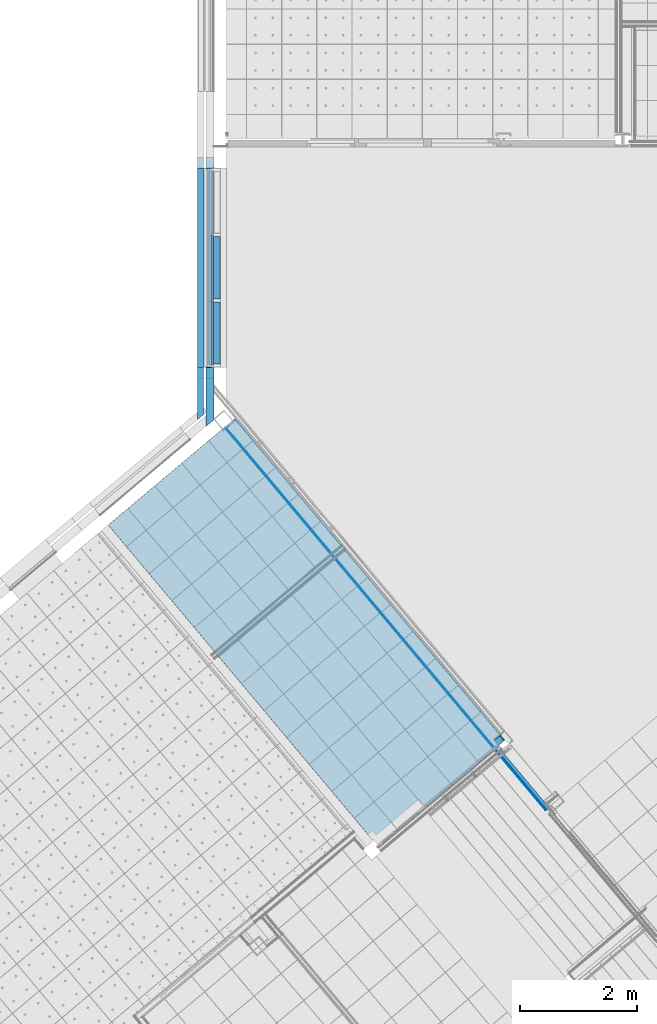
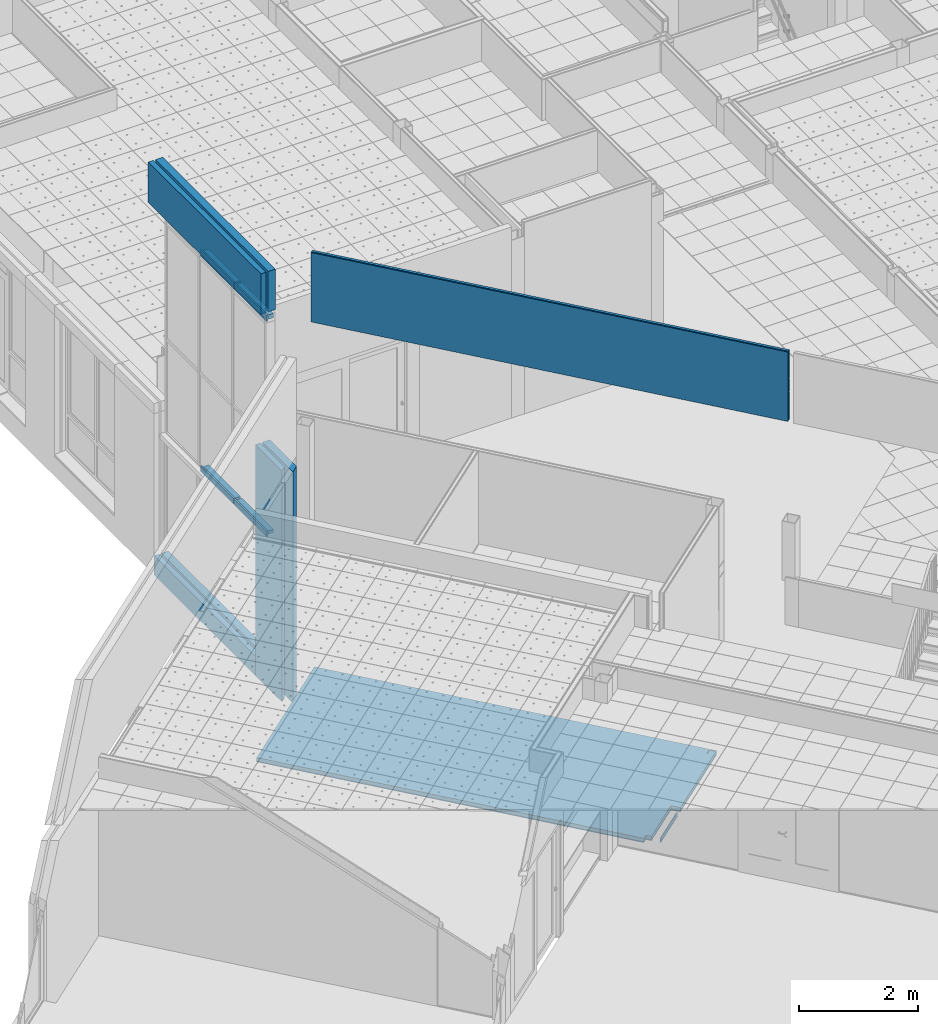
# One storey, part 63 of 338: 19 building element parts, 10 elements without a shape of their own.
"""IFC2X3 building model written with IfcOpenShell, lengths in millimetres."""

from ifc_helpers import new_model, entity, si_unit, converted_unit, derived_unit, money_unit, direction, frame, origin_with_axes, place, context, subcontext, project, spatial, faceted_brep, material, type_object, element, aggregate, save


model = new_model("IFC2X3")

# Units and contexts
model_context = context("Model", 3, precision=0.01, world=origin_with_axes(), true_north=direction((0.0, 1.0)))
plan_context = context("Plan", 3, precision=0.01, world=origin_with_axes(), true_north=direction((0.0, 1.0)))
body_context = subcontext(model_context, "Body", "Model", "MODEL_VIEW")
ifc_project = project(units=[si_unit("LENGTHUNIT", "METRE", prefix="MILLI"), si_unit("AREAUNIT", "SQUARE_METRE"), si_unit("VOLUMEUNIT", "CUBIC_METRE"), converted_unit("PLANEANGLEUNIT", "DEGREE", entity("IfcPlaneAngleMeasure", 0.0174532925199), si_unit("PLANEANGLEUNIT", "RADIAN"), dimensions=[0, 0, 0, 0, 0, 0, 0]), money_unit("EUR"), converted_unit("TIMEUNIT", "Year", entity("IfcTimeMeasure", 31556926.0), si_unit("TIMEUNIT", "SECOND"), dimensions=[0, 0, 1, 0, 0, 0, 0]), si_unit("MASSUNIT", "GRAM", prefix="KILO"), si_unit("THERMODYNAMICTEMPERATUREUNIT", "DEGREE_CELSIUS"), si_unit("LUMINOUSINTENSITYUNIT", "LUMEN"), si_unit("ENERGYUNIT", "JOULE", prefix="MEGA"), derived_unit("THERMALCONDUCTANCEUNIT", [(si_unit("POWERUNIT", "WATT"), 1), (si_unit("LENGTHUNIT", "METRE"), -1), (si_unit("THERMODYNAMICTEMPERATUREUNIT", "KELVIN"), -1)]), derived_unit("SPECIFICHEATCAPACITYUNIT", [(si_unit("ENERGYUNIT", "JOULE"), 1), (si_unit("MASSUNIT", "GRAM", prefix="KILO"), -1), (si_unit("THERMODYNAMICTEMPERATUREUNIT", "KELVIN"), -1)]), derived_unit("MASSDENSITYUNIT", [(si_unit("MASSUNIT", "GRAM", prefix="KILO"), 1), (si_unit("VOLUMEUNIT", "CUBIC_METRE"), -1)])], contexts=[model_context, plan_context])

# Site, building, storey
site_placement = place(None, origin_with_axes())
site = spatial("IfcSite", under=ifc_project, at=site_placement, Name="Fortuinstraat Woensdrecht", CompositionType="ELEMENT")
building_placement = place(site_placement, origin_with_axes())
building = spatial("IfcBuilding", under=site, at=building_placement, Name="IKC Fortuna", CompositionType="ELEMENT")
storey_placement = place(building_placement, origin_with_axes())
storey = spatial("IfcBuildingStorey", under=building, at=storey_placement, Name="00 begane grond", CompositionType="ELEMENT", Elevation=0.0)

# Wall, building element parts
wall_type_1 = type_object("IfcWallType", Name="21 MW hoofd 280", PredefinedType="NOTDEFINED")
wall_1_placement = place(storey_placement, frame((13595.4349765, 15889.7768159, 7010.0), z_axis=(0.0, 0.0, 1.0), x_axis=(0.0, -1.0, 0.0)))
wall_1 = element("IfcWall", 1, at=wall_1_placement, inside=storey, type_object=wall_type_1, Name="21_Wand_Baksteen")
ifc_material_1 = material(Name="ALG - ISOLATIE")
building_element_part_1_placement = place(wall_1_placement, origin_with_axes())
building_element_part_1 = element("IfcBuildingElementPart", 2, at=building_element_part_1_placement, material=ifc_material_1, Name="ALG - ISOLATIE", context=body_context, shape_type="Brep", body=[
    faceted_brep([(0.0, 0.0, 0.0), (3774.86273588, 0.0, 0.0), (3774.86273588, -140.0, 0.0), (0.0, -140.0, 0.0), (0.0, 0.0, 830.0), (3774.86273588, 0.0, 830.0), (3774.86273588, -140.0, 830.0), (0.0, -140.0, 830.0)], [[[0, 1, 2, 3]], [[4, 5, 1, 0]], [[2, 1, 5, 6]], [[3, 2, 6, 7]], [[4, 0, 3, 7]], [[7, 6, 5, 4]]]),
])
ifc_material_2 = material(Name="Steen - Baksteen Hoofd")
building_element_part_2_placement = place(wall_1_placement, origin_with_axes())
building_element_part_2 = element("IfcBuildingElementPart", 3, at=building_element_part_2_placement, material=ifc_material_2, Name="Steen - Baksteen Hoofd", context=body_context, shape_type="Brep", body=[
    faceted_brep([(0.0, -180.0, 0.0), (3774.86273588, -180.0, 0.0), (3774.86273588, -280.0, 0.0), (0.0, -280.0, 0.0), (0.0, -180.0, 830.0), (3774.86273588, -180.0, 830.0), (3774.86273588, -280.0, 830.0), (0.0, -280.0, 830.0)], [[[0, 1, 2, 3]], [[4, 5, 1, 0]], [[2, 1, 5, 6]], [[3, 2, 6, 7]], [[4, 0, 3, 7]], [[7, 6, 5, 4]]]),
])
aggregate(wall_1, [building_element_part_1, building_element_part_2])

# Curtain wall, plates, building element parts
curtain_wall_type = type_object("IfcCurtainWallType", Name="Curtain Wall Type", PredefinedType="NOTDEFINED")
curtain_wall_placement = place(storey_placement, frame((13569.9121752, 15129.2768159, -0.000250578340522), z_axis=(0.0, 0.0, 1.0), x_axis=(1.0, 0.0, 0.0)))
curtain_wall = element("IfcCurtainWall", 4, at=curtain_wall_placement, inside=storey, type_object=curtain_wall_type, Name="21_Vliesgevel_Vliesgevel")
plate_type_1 = type_object("IfcPlateType", Name="Distinct Panel 1095 x 114 x 33", PredefinedType="CURTAIN_PANEL")
plate_1_placement = place(curtain_wall_placement, frame((0.0, -2253.86265555, 2298.5), z_axis=(0.0, 0.0, 1.0), x_axis=(0.0, 1.0, 0.0)))
plate_1 = element("IfcPlate", 5, at=plate_1_placement, type_object=plate_type_1, Name="_Vliesgevel - paneel_Paneel-x", ObjectType="CURTAIN_PANEL")
ifc_material_3 = material(Name="Metaal - Staal AFW")
building_element_part_3_placement = place(plate_1_placement, origin_with_axes())
building_element_part_3 = element("IfcBuildingElementPart", 6, at=building_element_part_3_placement, material=ifc_material_3, Name="Metaal - Staal AFW", context=body_context, shape_type="Brep", body=[
    faceted_brep([(-533.000057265, -14.5, -54.9999927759), (-533.000008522, -14.5, 54.9999934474), (558.000025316, -14.5, 54.9999934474), (558.000025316, -14.5, -54.9999927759), (538.000030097, -14.5, -34.9999975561), (538.000030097, -14.5, 34.9999982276), (-513.00002971, -14.5, 34.9999982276), (-513.000045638, -14.5, -34.9999975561), (-533.000057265, 14.5, -54.9999927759), (-533.000008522, 14.5, 54.9999934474), (558.000025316, 14.5, 54.9999934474), (558.000025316, 14.5, -54.9999927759), (538.000030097, -131.5, 34.9999982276), (538.000030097, -131.5, -34.9999975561), (-513.00002971, -131.5, 34.9999982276), (-513.000045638, -131.5, -34.9999975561), (560.000025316, 14.5, 56.9999934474), (560.000025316, 14.5, -56.9999927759), (-535.000058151, 14.5, -56.9999927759), (-535.000007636, 14.5, 56.9999934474), (560.000025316, -16.5, -56.9999927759), (560.000025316, -16.5, 56.9999934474), (-535.000058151, -16.5, -56.9999927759), (-535.000007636, -16.5, 56.9999934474), (-515.000046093, -16.5, -36.9999975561), (-515.000029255, -16.5, 36.9999982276), (540.000030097, -16.5, 36.9999982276), (540.000030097, -16.5, -36.9999975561), (-515.000046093, -133.5, -36.9999975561), (-515.000029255, -133.5, 36.9999982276), (540.000030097, -133.5, 36.9999982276), (540.000030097, -133.5, -36.9999975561)], [[[0, 1, 2, 3], [4, 5, 6, 7]], [[0, 8, 9, 1]], [[1, 9, 10, 2]], [[2, 10, 11, 3]], [[3, 11, 8, 0]], [[12, 5, 4, 13]], [[6, 5, 12, 14]], [[7, 6, 14, 15]], [[13, 4, 7, 15]], [[16, 17, 18, 19], [8, 11, 10, 9]], [[15, 14, 12, 13]], [[20, 17, 16, 21]], [[22, 18, 17, 20]], [[23, 19, 18, 22]], [[21, 16, 19, 23]], [[22, 20, 21, 23], [24, 25, 26, 27]], [[25, 24, 28, 29]], [[26, 25, 29, 30]], [[27, 26, 30, 31]], [[24, 27, 31, 28]], [[31, 30, 29, 28]]]),
    faceted_brep([(-535.000007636, 16.5, 56.9999934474), (-535.000007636, 14.5, 56.9999934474), (560.000025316, 14.5, 56.9999934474), (560.000025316, 16.5, 56.9999934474), (-535.000058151, 16.5, -56.9999927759), (-535.000058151, 14.5, -56.9999927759), (560.000025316, 14.5, -56.9999927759), (560.000025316, 16.5, -56.9999927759)], [[[0, 1, 2, 3]], [[4, 5, 1, 0]], [[2, 1, 5, 6]], [[3, 2, 6, 7]], [[4, 0, 3, 7]], [[7, 6, 5, 4]]]),
])
building_element_part_4_placement = place(plate_1_placement, origin_with_axes())
building_element_part_4 = element("IfcBuildingElementPart", 7, at=building_element_part_4_placement, material=ifc_material_1, Name="ALG - ISOLATIE", context=body_context, shape_type="Brep", body=[
    faceted_brep([(538.000030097, -14.5, 34.9999982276), (-513.00002971, -14.5, 34.9999982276), (-513.00002971, -131.5, 34.9999982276), (538.000030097, -131.5, 34.9999982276), (558.000025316, -14.5, 54.9999934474), (-533.000008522, -14.5, 54.9999934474), (-533.000057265, -14.5, -54.9999927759), (558.000025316, -14.5, -54.9999927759), (-513.000045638, -14.5, -34.9999975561), (538.000030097, -14.5, -34.9999975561), (-513.000045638, -131.5, -34.9999975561), (538.000030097, -131.5, -34.9999975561), (-533.000008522, 14.5, 54.9999934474), (558.000025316, 14.5, 54.9999934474), (-533.000057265, 14.5, -54.9999927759), (558.000025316, 14.5, -54.9999927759)], [[[0, 1, 2, 3]], [[4, 5, 6, 7], [8, 1, 0, 9]], [[1, 8, 10, 2]], [[3, 2, 10, 11]], [[9, 0, 3, 11]], [[12, 5, 4, 13]], [[14, 6, 5, 12]], [[15, 7, 6, 14]], [[13, 4, 7, 15]], [[8, 9, 11, 10]], [[14, 12, 13, 15]]]),
])
aggregate(plate_1, [building_element_part_3, building_element_part_4])
plate_type_2 = type_object("IfcPlateType", Name="Distinct Panel 1095 x 130 x 33", PredefinedType="CURTAIN_PANEL")
plate_2_placement = place(curtain_wall_placement, frame((0.0, -2253.86262301, 6717.50001103), z_axis=(0.0, 0.0, 1.0), x_axis=(0.0, 1.0, 0.0)))
plate_2 = element("IfcPlate", 8, at=plate_2_placement, type_object=plate_type_2, Name="_Vliesgevel - paneel_Paneel-x", ObjectType="CURTAIN_PANEL")
building_element_part_5_placement = place(plate_2_placement, origin_with_axes())
building_element_part_5 = element("IfcBuildingElementPart", 9, at=building_element_part_5_placement, material=ifc_material_3, Name="Metaal - Staal AFW", context=body_context, shape_type="Brep", body=[
    faceted_brep([(-532.999992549, -14.5, -75.5000041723), (-532.999992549, -14.5, 50.5000056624), (557.999993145, -14.5, 50.5000056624), (557.999993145, -14.5, -75.5000041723), (537.999999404, -14.5, -55.5000104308), (537.999999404, -14.5, 30.5000119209), (-512.999998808, -14.5, 30.5000119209), (-512.999998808, -14.5, -55.5000104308), (-532.999992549, 14.5, -75.5000041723), (-532.999992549, 14.5, 50.5000056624), (557.999993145, 14.5, 50.5000056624), (557.999993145, 14.5, -75.5000041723), (537.999999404, -131.5, 30.5000119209), (537.999999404, -131.5, -55.5000104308), (-512.999998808, -131.5, 30.5000119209), (-512.999998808, -131.5, -55.5000104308), (559.999993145, 14.5, 52.5000056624), (559.999993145, 14.5, -77.5000041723), (-534.999992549, 14.5, -77.5000041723), (-534.999992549, 14.5, 52.5000056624), (559.999993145, -16.5, -77.5000041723), (559.999993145, -16.5, 52.5000056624), (-534.999992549, -16.5, -77.5000041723), (-534.999992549, -16.5, 52.5000056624), (-514.999998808, -16.5, -57.5000104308), (-514.999998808, -16.5, 32.5000119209), (539.999999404, -16.5, 32.5000119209), (539.999999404, -16.5, -57.5000104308), (-514.999998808, -133.5, -57.5000104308), (-514.999998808, -133.5, 32.5000119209), (539.999999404, -133.5, 32.5000119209), (539.999999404, -133.5, -57.5000104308)], [[[0, 1, 2, 3], [4, 5, 6, 7]], [[0, 8, 9, 1]], [[1, 9, 10, 2]], [[2, 10, 11, 3]], [[3, 11, 8, 0]], [[12, 5, 4, 13]], [[6, 5, 12, 14]], [[7, 6, 14, 15]], [[13, 4, 7, 15]], [[16, 17, 18, 19], [8, 11, 10, 9]], [[15, 14, 12, 13]], [[20, 17, 16, 21]], [[22, 18, 17, 20]], [[23, 19, 18, 22]], [[21, 16, 19, 23]], [[22, 20, 21, 23], [24, 25, 26, 27]], [[25, 24, 28, 29]], [[26, 25, 29, 30]], [[27, 26, 30, 31]], [[24, 27, 31, 28]], [[31, 30, 29, 28]]]),
    faceted_brep([(-534.999992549, 16.5, 52.5000056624), (-534.999992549, 14.5, 52.5000056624), (559.999993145, 14.5, 52.5000056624), (559.999993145, 16.5, 52.5000056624), (-534.999992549, 16.5, -77.5000041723), (-534.999992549, 14.5, -77.5000041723), (559.999993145, 14.5, -77.5000041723), (559.999993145, 16.5, -77.5000041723)], [[[0, 1, 2, 3]], [[4, 5, 1, 0]], [[2, 1, 5, 6]], [[3, 2, 6, 7]], [[4, 0, 3, 7]], [[7, 6, 5, 4]]]),
])
building_element_part_6_placement = place(plate_2_placement, origin_with_axes())
building_element_part_6 = element("IfcBuildingElementPart", 10, at=building_element_part_6_placement, material=ifc_material_1, Name="ALG - ISOLATIE", context=body_context, shape_type="Brep", body=[
    faceted_brep([(537.999999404, -14.5, 30.5000119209), (-512.999998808, -14.5, 30.5000119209), (-512.999998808, -131.5, 30.5000119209), (537.999999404, -131.5, 30.5000119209), (557.999993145, -14.5, 50.5000056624), (-532.999992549, -14.5, 50.5000056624), (-532.999992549, -14.5, -75.5000041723), (557.999993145, -14.5, -75.5000041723), (-512.999998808, -14.5, -55.5000104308), (537.999999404, -14.5, -55.5000104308), (-512.999998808, -131.5, -55.5000104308), (537.999999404, -131.5, -55.5000104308), (-532.999992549, 14.5, 50.5000056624), (557.999993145, 14.5, 50.5000056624), (-532.999992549, 14.5, -75.5000041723), (557.999993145, 14.5, -75.5000041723)], [[[0, 1, 2, 3]], [[4, 5, 6, 7], [8, 1, 0, 9]], [[1, 8, 10, 2]], [[3, 2, 10, 11]], [[9, 0, 3, 11]], [[12, 5, 4, 13]], [[14, 6, 5, 12]], [[15, 7, 6, 14]], [[13, 4, 7, 15]], [[8, 9, 11, 10]], [[14, 12, 13, 15]]]),
])
aggregate(plate_2, [building_element_part_5, building_element_part_6])
plate_type_3 = type_object("IfcPlateType", Name="Distinct Panel 1114 x 130 x 33", PredefinedType="CURTAIN_PANEL")
plate_3_placement = place(curtain_wall_placement, frame((0.0, -1126.9313115, 6717.50001103), z_axis=(0.0, 0.0, 1.0), x_axis=(0.0, 1.0, 0.0)))
plate_3 = element("IfcPlate", 11, at=plate_3_placement, type_object=plate_type_3, Name="_Vliesgevel - paneel_Paneel-x", ObjectType="CURTAIN_PANEL")
building_element_part_7_placement = place(plate_3_placement, origin_with_axes())
building_element_part_7 = element("IfcBuildingElementPart", 12, at=building_element_part_7_placement, material=ifc_material_3, Name="Metaal - Staal AFW", context=body_context, shape_type="Brep", body=[
    faceted_brep([(-554.93131454, -14.5, -75.500014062), (-554.93131454, -14.5, 50.5000075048), (554.93131454, -14.5, 50.5000075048), (554.93131454, -14.5, -75.500014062), (534.931309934, -14.5, -55.5000094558), (534.931309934, -14.5, 30.5000028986), (-534.931309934, -14.5, 30.5000028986), (-534.931309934, -14.5, -55.5000094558), (-554.93131454, 14.5, -75.500014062), (-554.93131454, 14.5, 50.5000075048), (554.93131454, 14.5, 50.5000075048), (554.93131454, 14.5, -75.500014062), (534.931309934, -131.5, 30.5000028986), (534.931309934, -131.5, -55.5000094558), (-534.931309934, -131.5, 30.5000028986), (-534.931309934, -131.5, -55.5000094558), (556.93131454, 14.5, 52.5000075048), (556.93131454, 14.5, -77.500014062), (-556.93131454, 14.5, -77.500014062), (-556.93131454, 14.5, 52.5000075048), (556.93131454, -16.5, -77.500014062), (556.93131454, -16.5, 52.5000075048), (-556.93131454, -16.5, -77.500014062), (-556.93131454, -16.5, 52.5000075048), (-536.931309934, -16.5, -57.5000094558), (-536.931309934, -16.5, 32.5000028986), (536.931309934, -16.5, 32.5000028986), (536.931309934, -16.5, -57.5000094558), (-536.931309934, -133.5, -57.5000094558), (-536.931309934, -133.5, 32.5000028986), (536.931309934, -133.5, 32.5000028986), (536.931309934, -133.5, -57.5000094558)], [[[0, 1, 2, 3], [4, 5, 6, 7]], [[0, 8, 9, 1]], [[1, 9, 10, 2]], [[2, 10, 11, 3]], [[3, 11, 8, 0]], [[12, 5, 4, 13]], [[6, 5, 12, 14]], [[7, 6, 14, 15]], [[13, 4, 7, 15]], [[16, 17, 18, 19], [8, 11, 10, 9]], [[15, 14, 12, 13]], [[20, 17, 16, 21]], [[22, 18, 17, 20]], [[23, 19, 18, 22]], [[21, 16, 19, 23]], [[22, 20, 21, 23], [24, 25, 26, 27]], [[25, 24, 28, 29]], [[26, 25, 29, 30]], [[27, 26, 30, 31]], [[24, 27, 31, 28]], [[31, 30, 29, 28]]]),
    faceted_brep([(-556.93131454, 16.5, 52.5000075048), (-556.93131454, 14.5, 52.5000075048), (556.93131454, 14.5, 52.5000075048), (556.93131454, 16.5, 52.5000075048), (-556.93131454, 16.5, -77.500014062), (-556.93131454, 14.5, -77.500014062), (556.93131454, 14.5, -77.500014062), (556.93131454, 16.5, -77.500014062)], [[[0, 1, 2, 3]], [[4, 5, 1, 0]], [[2, 1, 5, 6]], [[3, 2, 6, 7]], [[4, 0, 3, 7]], [[7, 6, 5, 4]]]),
])
building_element_part_8_placement = place(plate_3_placement, origin_with_axes())
building_element_part_8 = element("IfcBuildingElementPart", 13, at=building_element_part_8_placement, material=ifc_material_1, Name="ALG - ISOLATIE", context=body_context, shape_type="Brep", body=[
    faceted_brep([(534.931309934, -14.5, 30.5000028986), (-534.931309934, -14.5, 30.5000028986), (-534.931309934, -131.5, 30.5000028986), (534.931309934, -131.5, 30.5000028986), (554.93131454, -14.5, 50.5000075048), (-554.93131454, -14.5, 50.5000075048), (-554.93131454, -14.5, -75.500014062), (554.93131454, -14.5, -75.500014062), (-534.931309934, -14.5, -55.5000094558), (534.931309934, -14.5, -55.5000094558), (-534.931309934, -131.5, -55.5000094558), (534.931309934, -131.5, -55.5000094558), (-554.93131454, 14.5, 50.5000075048), (554.93131454, 14.5, 50.5000075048), (-554.93131454, 14.5, -75.500014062), (554.93131454, 14.5, -75.500014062)], [[[0, 1, 2, 3]], [[4, 5, 6, 7], [8, 1, 0, 9]], [[1, 8, 10, 2]], [[3, 2, 10, 11]], [[9, 0, 3, 11]], [[12, 5, 4, 13]], [[14, 6, 5, 12]], [[15, 7, 6, 14]], [[13, 4, 7, 15]], [[8, 9, 11, 10]], [[14, 12, 13, 15]]]),
])
aggregate(plate_3, [building_element_part_7, building_element_part_8])
plate_type_4 = type_object("IfcPlateType", Name="Distinct Panel 1114 x 114 x 33", PredefinedType="CURTAIN_PANEL")
plate_4_placement = place(curtain_wall_placement, frame((0.0, -1126.9313115, 2298.5), z_axis=(0.0, 0.0, 1.0), x_axis=(0.0, 1.0, 0.0)))
plate_4 = element("IfcPlate", 14, at=plate_4_placement, type_object=plate_type_4, Name="_Vliesgevel - paneel_Paneel-x", ObjectType="CURTAIN_PANEL")
aggregate(curtain_wall, [plate_1, plate_2, plate_3, plate_4])
building_element_part_9_placement = place(plate_4_placement, origin_with_axes())
building_element_part_9 = element("IfcBuildingElementPart", 15, at=building_element_part_9_placement, material=ifc_material_3, Name="Metaal - Staal AFW", context=body_context, shape_type="Brep", body=[
    faceted_brep([(-554.93131454, -14.5, -55.0000030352), (-554.93131454, -14.5, 55.0000047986), (554.93131454, -14.5, 55.0000047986), (554.93131454, -14.5, -55.0000030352), (534.931309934, -14.5, -34.999998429), (534.931309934, -14.5, 35.0000001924), (-534.931309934, -14.5, 35.0000001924), (-534.931309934, -14.5, -34.999998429), (-554.93131454, 14.5, -55.0000030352), (-554.93131454, 14.5, 55.0000047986), (554.93131454, 14.5, 55.0000047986), (554.93131454, 14.5, -55.0000030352), (534.931309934, -131.5, 35.0000001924), (534.931309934, -131.5, -34.999998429), (-534.931309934, -131.5, 35.0000001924), (-534.931309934, -131.5, -34.999998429), (556.93131454, 14.5, 57.0000047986), (556.93131454, 14.5, -57.0000030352), (-556.93131454, 14.5, -57.0000030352), (-556.93131454, 14.5, 57.0000047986), (556.93131454, -16.5, -57.0000030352), (556.93131454, -16.5, 57.0000047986), (-556.93131454, -16.5, -57.0000030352), (-556.93131454, -16.5, 57.0000047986), (-536.931309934, -16.5, -36.999998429), (-536.931309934, -16.5, 37.0000001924), (536.931309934, -16.5, 37.0000001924), (536.931309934, -16.5, -36.999998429), (-536.931309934, -133.5, -36.999998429), (-536.931309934, -133.5, 37.0000001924), (536.931309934, -133.5, 37.0000001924), (536.931309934, -133.5, -36.999998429)], [[[0, 1, 2, 3], [4, 5, 6, 7]], [[0, 8, 9, 1]], [[1, 9, 10, 2]], [[2, 10, 11, 3]], [[3, 11, 8, 0]], [[12, 5, 4, 13]], [[6, 5, 12, 14]], [[7, 6, 14, 15]], [[13, 4, 7, 15]], [[16, 17, 18, 19], [8, 11, 10, 9]], [[15, 14, 12, 13]], [[20, 17, 16, 21]], [[22, 18, 17, 20]], [[23, 19, 18, 22]], [[21, 16, 19, 23]], [[22, 20, 21, 23], [24, 25, 26, 27]], [[25, 24, 28, 29]], [[26, 25, 29, 30]], [[27, 26, 30, 31]], [[24, 27, 31, 28]], [[31, 30, 29, 28]]]),
    faceted_brep([(-556.93131454, 16.5, 57.0000047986), (-556.93131454, 14.5, 57.0000047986), (556.93131454, 14.5, 57.0000047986), (556.93131454, 16.5, 57.0000047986), (-556.93131454, 16.5, -57.0000030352), (-556.93131454, 14.5, -57.0000030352), (556.93131454, 14.5, -57.0000030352), (556.93131454, 16.5, -57.0000030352)], [[[0, 1, 2, 3]], [[4, 5, 1, 0]], [[2, 1, 5, 6]], [[3, 2, 6, 7]], [[4, 0, 3, 7]], [[7, 6, 5, 4]]]),
])
building_element_part_10_placement = place(plate_4_placement, origin_with_axes())
building_element_part_10 = element("IfcBuildingElementPart", 16, at=building_element_part_10_placement, material=ifc_material_1, Name="ALG - ISOLATIE", context=body_context, shape_type="Brep", body=[
    faceted_brep([(534.931309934, -14.5, 35.0000001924), (-534.931309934, -14.5, 35.0000001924), (-534.931309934, -131.5, 35.0000001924), (534.931309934, -131.5, 35.0000001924), (554.93131454, -14.5, 55.0000047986), (-554.93131454, -14.5, 55.0000047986), (-554.93131454, -14.5, -55.0000030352), (554.93131454, -14.5, -55.0000030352), (-534.931309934, -14.5, -34.999998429), (534.931309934, -14.5, -34.999998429), (-534.931309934, -131.5, -34.999998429), (534.931309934, -131.5, -34.999998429), (-554.93131454, 14.5, 55.0000047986), (554.93131454, 14.5, 55.0000047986), (-554.93131454, 14.5, -55.0000030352), (554.93131454, 14.5, -55.0000030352)], [[[0, 1, 2, 3]], [[4, 5, 6, 7], [8, 1, 0, 9]], [[1, 8, 10, 2]], [[3, 2, 10, 11]], [[9, 0, 3, 11]], [[12, 5, 4, 13]], [[14, 6, 5, 12]], [[15, 7, 6, 14]], [[13, 4, 7, 15]], [[8, 9, 11, 10]], [[14, 12, 13, 15]]]),
])
aggregate(plate_4, [building_element_part_9, building_element_part_10])

# Wall, building element parts
wall_type_2 = type_object("IfcWallType", Name="21 MW accent 280", PredefinedType="NOTDEFINED")
wall_2_placement = place(storey_placement, frame((13595.4352551, 15692.4141437, -485.0), z_axis=(0.0, 0.0, 1.0), x_axis=(0.0, -1.0, 0.0)))
wall_2 = element("IfcWall", 17, at=wall_2_placement, inside=storey, type_object=wall_type_2, Name="21_Wand_Baksteen")
building_element_part_11_placement = place(wall_2_placement, origin_with_axes())
building_element_part_11 = element("IfcBuildingElementPart", 18, at=building_element_part_11_placement, material=ifc_material_1, Name="ALG - ISOLATIE", context=body_context, shape_type="Brep", body=[
    faceted_brep([(0.0, 0.0, 0.0), (3390.0, 0.0, 0.0), (3390.0, -140.0, 0.0), (0.0, -140.0, 0.0), (0.0, 0.0, 395.0), (3390.0, 0.0, 395.0), (3390.0, -140.0, 395.0), (0.0, -140.0, 395.0)], [[[0, 1, 2, 3]], [[4, 5, 1, 0]], [[2, 1, 5, 6]], [[3, 2, 6, 7]], [[4, 0, 3, 7]], [[7, 6, 5, 4]]]),
])
ifc_material_4 = material(Name="Steen - Baksteen Accent")
building_element_part_12_placement = place(wall_2_placement, origin_with_axes())
building_element_part_12 = element("IfcBuildingElementPart", 19, at=building_element_part_12_placement, material=ifc_material_4, Name="Steen - Baksteen Accent", context=body_context, shape_type="Brep", body=[
    faceted_brep([(0.0, -180.0, 0.0), (3390.0, -180.0, 0.0), (3390.0, -280.0, 0.0), (0.0, -280.0, 0.0), (0.0, -180.0, 395.0), (3390.0, -180.0, 395.0), (3390.0, -280.0, 395.0), (0.0, -280.0, 395.0)], [[[0, 1, 2, 3]], [[4, 5, 1, 0]], [[2, 1, 5, 6]], [[3, 2, 6, 7]], [[4, 0, 3, 7]], [[7, 6, 5, 4]]]),
])
aggregate(wall_2, [building_element_part_11, building_element_part_12])

# Covering, building element parts
covering_type = type_object("IfcCoveringType", Name="43 Vloerafwerking 90", PredefinedType="FLOORING")
covering_placement = place(storey_placement, frame((13955.0832906, 11430.3480701, 0.0), z_axis=(0.0, 0.0, 1.0), x_axis=(1.0, 0.0, 0.0)))
covering = element("IfcCovering", 20, at=covering_placement, inside=storey, type_object=covering_type, Name="43_Vloerafwerking_Vloerafwerking", PredefinedType="FLOORING")
ifc_material_5 = material(Name="Cement")
building_element_part_13_placement = place(covering_placement, origin_with_axes())
building_element_part_13 = element("IfcBuildingElementPart", 21, at=building_element_part_13_placement, material=ifc_material_5, Name="Cement", context=body_context, shape_type="Brep", body=[
    faceted_brep([(-44.175260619, -45.0477600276, 0.0), (-52.6017494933, -52.1184237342, 0.0), (-56.5312885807, -47.4353814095, 0.0), (-200.547646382, -168.279449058, 0.0), (-196.6181048, -172.962494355, 0.0), (-205.044593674, -180.033158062, 0.0), (-208.974135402, -175.35011259, 0.0), (-218.556964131, -183.391060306, 0.0), (-218.484508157, -183.477417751, 0.0), (-2165.69924012, -1817.23735745, 0.0), (2269.53529821, -7102.9440525, 0.0), (2345.84823947, -7038.90989163, 0.0), (2410.12700041, -7115.51433591, 0.0), (3026.79277713, -6598.07031011, 0.0), (3141.6994436, -6501.65216865, 0.0), (3249.36634489, -6629.96458507, 0.0), (4587.26298798, -5507.33605237, 0.0), (4527.16234662, -5435.71089712, 0.0), (4519.52990923, -5430.36660692, 0.0), (4510.24787945, -5429.55453454, 0.0), (4501.80336967, -5433.49227412, 0.0), (4434.00843646, -5490.37897758, 0.0), (4426.93777275, -5481.9524887, 0.0), (4528.43865937, -5396.78313218, 0.0), (0.0, 0.0, 0.0), (-48.1047995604, -40.3647178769, 0.0), (-52.6017494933, -52.1184237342, -50.0), (-44.175260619, -45.0477600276, -50.0), (-56.5312885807, -47.4353814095, -50.0), (-48.1047995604, -40.3647178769, -50.0), (0.0, 0.0, -70.0), (-218.556964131, -183.391060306, -70.0), (-208.974135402, -175.35011259, -50.0), (-200.547646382, -168.279449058, -50.0), (-196.6181048, -172.962494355, -50.0), (-205.044593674, -180.033158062, -50.0), (-218.484508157, -183.477417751, -70.0), (-2165.69924012, -1817.23735745, -70.0), (2269.53529821, -7102.9440525, -70.0), (2345.84823947, -7038.90989163, -70.0), (2410.12700041, -7115.51433591, -70.0), (3026.79277713, -6598.07031011, -70.0), (3141.6994436, -6501.65216865, -70.0), (3249.36634489, -6629.96458507, -70.0), (4592.62529917, -5502.83653921, -50.0), (4587.26298798, -5507.33605237, -50.0), (4607.18014097, -5490.62357734, -70.0), (4607.18014097, -5490.62357734, 0.0), (4592.62529917, -5502.83653921, 0.0), (4527.16234662, -5435.71089712, -50.0), (4519.52990923, -5430.36660692, -50.0), (4510.24787945, -5429.55453454, -50.0), (4501.80336967, -5433.49227412, -50.0), (4434.00843646, -5490.37897758, -50.0), (4426.93777275, -5481.9524887, -50.0), (4528.43865937, -5396.78313218, -50.0), (4535.509323, -5405.20962111, -50.0), (4535.509323, -5405.20962111, 0.0), (4532.52465773, -5431.21138386, -50.0), (4528.58691815, -5422.76687408, -50.0), (4529.39899053, -5413.4848443, -50.0), (4534.74328073, -5405.85240691, -50.0), (4529.39899053, -5413.4848443, 0.0), (4528.58691815, -5422.76687408, 0.0), (4532.52465773, -5431.21138386, 0.0), (4534.74328073, -5405.85240691, 0.0)], [[[0, 1, 2, 3, 4, 5, 6, 7, 8, 9, 10, 11, 12, 13, 14, 15, 16, 17, 18, 19, 20, 21, 22, 23, 24, 25]], [[26, 1, 0, 27]], [[28, 2, 1, 26]], [[28, 29, 25, 24, 30, 31, 7, 6, 32, 33, 3, 2]], [[34, 4, 3, 33]], [[35, 5, 4, 34]], [[32, 6, 5, 35]], [[8, 7, 31, 36]], [[9, 8, 36, 37]], [[9, 37, 38, 10]], [[38, 39, 11, 10]], [[11, 39, 40, 12]], [[41, 13, 12, 40]], [[41, 42, 14, 13]], [[43, 15, 14, 42]], [[44, 45, 16, 15, 43, 46, 47, 48]], [[49, 17, 16, 45]], [[50, 18, 17, 49]], [[51, 19, 18, 50]], [[52, 20, 19, 51]], [[53, 21, 20, 52]], [[54, 22, 21, 53]], [[54, 55, 23, 22]], [[55, 56, 57, 47, 46, 30, 24, 23]], [[27, 0, 25, 29]], [[27, 29, 28, 26]], [[41, 40, 39, 38, 37, 36, 31, 30, 46, 43, 42]], [[34, 33, 32, 35]], [[49, 45, 44, 58, 59, 60, 61, 56, 55, 54, 53, 52, 51, 50]], [[62, 63, 64, 48, 47, 57, 65]], [[58, 44, 48, 64]], [[61, 65, 57, 56]], [[58, 64, 63, 59]], [[59, 63, 62, 60]], [[60, 62, 65, 61]]]),
    faceted_brep([(3123.21091858, -6712.97697657, 0.0), (2506.54514186, -7230.42100238, 0.0), (2517.79388903, -7243.82673723, 0.0), (3134.45967644, -6726.38272416, 0.0), (3123.21091858, -6712.97697657, -70.0), (2506.54514186, -7230.42100238, -70.0), (2517.79388903, -7243.82673723, -70.0), (3134.45967644, -6726.38272416, -70.0)], [[[0, 1, 2, 3]], [[4, 5, 1, 0]], [[5, 6, 2, 1]], [[3, 2, 6, 7]], [[4, 0, 3, 7]], [[7, 6, 5, 4]]]),
])
ifc_material_6 = material(Name="Isolatie - XPS zwevende dekvloer")
building_element_part_14_placement = place(covering_placement, origin_with_axes())
building_element_part_14 = element("IfcBuildingElementPart", 22, at=building_element_part_14_placement, material=ifc_material_6, Name="Isolatie - XPS zwevende dekvloer", context=body_context, shape_type="Brep", body=[
    faceted_brep([(-218.484508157, -183.477417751, -70.0), (-2165.69924012, -1817.23735745, -70.0), (2269.53529821, -7102.9440525, -70.0), (2345.84823947, -7038.90989163, -70.0), (2410.12700041, -7115.51433591, -70.0), (3026.79277713, -6598.07031011, -70.0), (3141.6994436, -6501.65216865, -70.0), (3249.36634489, -6629.96458507, -70.0), (4607.18014097, -5490.62357734, -70.0), (0.0, 0.0, -70.0), (-218.556964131, -183.391060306, -70.0), (-218.484508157, -183.477417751, -90.0), (-2165.69924012, -1817.23735745, -90.0), (2269.53529821, -7102.9440525, -90.0), (2345.84823947, -7038.90989163, -90.0), (2410.12700041, -7115.51433591, -90.0), (3026.79277713, -6598.07031011, -90.0), (3141.6994436, -6501.65216865, -90.0), (3249.36634489, -6629.96458507, -90.0), (4607.18014097, -5490.62357734, -90.0), (0.0, 0.0, -90.0), (-218.556964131, -183.391060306, -90.0)], [[[0, 1, 2, 3, 4, 5, 6, 7, 8, 9, 10]], [[1, 0, 11, 12]], [[1, 12, 13, 2]], [[13, 14, 3, 2]], [[3, 14, 15, 4]], [[16, 5, 4, 15]], [[16, 17, 6, 5]], [[18, 7, 6, 17]], [[18, 19, 8, 7]], [[9, 8, 19, 20]], [[20, 21, 10, 9]], [[0, 10, 21, 11]], [[16, 15, 14, 13, 12, 11, 21, 20, 19, 18, 17]]]),
    faceted_brep([(3123.21091858, -6712.97697657, -70.0), (2506.54514186, -7230.42100238, -70.0), (2517.79388903, -7243.82673723, -70.0), (3134.45967644, -6726.38272416, -70.0), (3123.21091858, -6712.97697657, -90.0), (2506.54514186, -7230.42100238, -90.0), (2517.79388903, -7243.82673723, -90.0), (3134.45967644, -6726.38272416, -90.0)], [[[0, 1, 2, 3]], [[4, 5, 1, 0]], [[5, 6, 2, 1]], [[3, 2, 6, 7]], [[4, 0, 3, 7]], [[7, 6, 5, 4]]]),
])
aggregate(covering, [building_element_part_13, building_element_part_14])

# Wall, building element parts
wall_3_placement = place(storey_placement, frame((13595.4349765, 12302.4141437, -485.0), z_axis=(0.0, 0.0, 1.0), x_axis=(0.0, -1.0, 0.0)))
wall_3 = element("IfcWall", 23, at=wall_3_placement, inside=storey, type_object=wall_type_2, Name="21_Wand_Baksteen")
building_element_part_15_placement = place(wall_3_placement, origin_with_axes())
building_element_part_15 = element("IfcBuildingElementPart", 24, at=building_element_part_15_placement, material=ifc_material_1, Name="ALG - ISOLATIE", context=body_context, shape_type="Brep", body=[
    faceted_brep([(0.0, -140.0, 4722.5), (1011.96361752, -140.0, 4722.5), (894.489669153, 0.0, 4722.5), (0.0, 0.0, 4722.5), (1011.96361752, -140.0, 0.0), (0.0, -140.0, 0.0), (894.489669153, 0.0, 0.0), (0.0, 0.0, 0.0)], [[[0, 1, 2, 3]], [[4, 1, 0, 5]], [[6, 2, 1, 4]], [[3, 2, 6, 7]], [[0, 3, 7, 5]], [[7, 6, 4, 5]]]),
])
building_element_part_16_placement = place(wall_3_placement, origin_with_axes())
building_element_part_16 = element("IfcBuildingElementPart", 25, at=building_element_part_16_placement, material=ifc_material_4, Name="Steen - Baksteen Accent", context=body_context, shape_type="Brep", body=[
    faceted_brep([(894.464253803, -280.0, 4722.5), (810.554290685, -180.0, 4722.5), (0.0, -180.0, 4722.5), (0.0, -280.0, 4722.5), (810.554290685, -180.0, 395.0), (894.464253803, -280.0, 0.0), (810.554290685, -180.0, 0.0), (0.0, -180.0, 0.0), (0.0, -280.0, 0.0)], [[[0, 1, 2, 3]], [[4, 1, 0, 5, 6]], [[1, 4, 6, 7, 2]], [[3, 2, 7, 8]], [[0, 3, 8, 5]], [[6, 5, 8, 7]]]),
])
aggregate(wall_3, [building_element_part_15, building_element_part_16])

wall_type_3 = type_object("IfcWallType", Name="MS75 50.2A 75", PredefinedType="NOTDEFINED")
wall_4_placement = place(storey_placement, frame((13788.574593, 11259.3009203, 7210.0), z_axis=(0.0, 0.0, 1.0), x_axis=(0.642787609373, -0.766044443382, 0.0)))
wall_4 = element("IfcWall", 26, at=wall_4_placement, inside=storey, type_object=wall_type_3, Name="22_Wand_koof")
ifc_material_7 = material(Name="Isolatie - Steenwol LSW")
building_element_part_17_placement = place(wall_4_placement, origin_with_axes())
building_element_part_17 = element("IfcBuildingElementPart", 27, at=building_element_part_17_placement, material=ifc_material_7, Name="Isolatie - Steenwol LSW", context=body_context, shape_type="Brep", body=[
    faceted_brep([(0.0, 75.0, 831.0), (6977.31193892, 75.0, 831.0), (6977.31193892, 75.0, 845.0), (0.0, 75.0, 845.0), (0.0, 75.0, 1420.02107509), (8501.16502423, 75.0, 1420.02107509), (8501.16502423, 75.0, 845.0), (7277.35419838, 75.0, 845.0), (7277.35419838, 75.0, 831.0), (8501.16502423, 75.0, 831.0), (8501.16502423, 75.0, 569.0), (7277.35419838, 75.0, 569.0), (7277.35419838, 75.0, 555.0), (8501.16502423, 75.0, 555.0), (8501.16502423, 75.0, 0.0), (0.0, 75.0, 0.0), (0.0, 75.0, 555.0), (6977.31193892, 75.0, 555.0), (6977.31193892, 75.0, 569.0), (0.0, 75.0, 569.0), (0.0, 24.9999953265, 831.0), (6977.31193894, 24.9999981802, 831.0), (6977.31193894, 24.9999981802, 845.0), (0.0, 24.9999953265, 845.0), (0.0, 25.0, 1420.02107509), (8501.16502423, 25.0, 1420.02107509), (8501.16502423, 24.9999988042, 845.0), (7277.3541984, 24.9999983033, 845.0), (7277.3541984, 24.9999983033, 831.0), (8501.16502423, 24.9999988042, 831.0), (8501.16502423, 24.9999988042, 569.0), (7277.3541984, 24.9999983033, 569.0), (7277.3541984, 24.9999983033, 555.0), (8501.16502423, 24.9999988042, 555.0), (8501.16502423, 25.0, 0.0), (0.0, 25.0, 0.0), (0.0, 24.9999953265, 555.0), (6977.31193894, 24.9999981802, 555.0), (6977.31193894, 24.9999981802, 569.0), (0.0, 24.9999953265, 569.0)], [[[0, 1, 2, 3, 4, 5, 6, 7, 8, 9, 10, 11, 12, 13, 14, 15, 16, 17, 18, 19]], [[1, 0, 20, 21]], [[2, 1, 21, 22]], [[3, 2, 22, 23]], [[3, 23, 24, 4]], [[24, 25, 5, 4]], [[26, 6, 5, 25]], [[7, 6, 26, 27]], [[8, 7, 27, 28]], [[29, 9, 8, 28]], [[9, 29, 30, 10]], [[11, 10, 30, 31]], [[12, 11, 31, 32]], [[33, 13, 12, 32]], [[13, 33, 34, 14]], [[15, 14, 34, 35]], [[36, 16, 15, 35]], [[17, 16, 36, 37]], [[18, 17, 37, 38]], [[19, 18, 38, 39]], [[20, 0, 19, 39]], [[21, 20, 39, 38, 37, 36, 35, 34, 33, 32, 31, 30, 29, 28, 27, 26, 25, 24, 23, 22]]]),
])
ifc_material_8 = material(Name="Gipsplaat")
building_element_part_18_placement = place(wall_4_placement, origin_with_axes())
building_element_part_18 = element("IfcBuildingElementPart", 28, at=building_element_part_18_placement, material=ifc_material_8, Name="Gipsplaat", context=body_context, shape_type="Brep", body=[
    faceted_brep([(0.0, 25.0, 0.0), (8501.16502423, 25.0, 0.0), (8501.16502423, 12.5, 0.0), (0.0, 12.5, 0.0), (0.0, 25.0, 1420.02107509), (8501.16502423, 25.0, 1420.02107509), (8501.16502423, 12.5, 1420.02107509), (0.0, 12.5, 1420.02107509)], [[[0, 1, 2, 3]], [[4, 5, 1, 0]], [[2, 1, 5, 6]], [[3, 2, 6, 7]], [[4, 0, 3, 7]], [[7, 6, 5, 4]]]),
])
building_element_part_19_placement = place(wall_4_placement, origin_with_axes())
building_element_part_19 = element("IfcBuildingElementPart", 29, at=building_element_part_19_placement, material=ifc_material_8, Name="Gipsplaat", context=body_context, shape_type="Brep", body=[
    faceted_brep([(0.0, 12.5, 0.0), (8501.16502423, 12.5, 0.0), (8501.16502423, 0.0, 0.0), (0.0, 0.0, 0.0), (0.0, 12.5, 1420.02107509), (8501.16502423, 12.5, 1420.02107509), (8501.16502423, 0.0, 1420.02107509), (0.0, 0.0, 1420.02107509)], [[[0, 1, 2, 3]], [[4, 5, 1, 0]], [[2, 1, 5, 6]], [[3, 2, 6, 7]], [[4, 0, 3, 7]], [[7, 6, 5, 4]]]),
])
aggregate(wall_4, [building_element_part_17, building_element_part_18, building_element_part_19])

save(model, "model.ifc")
